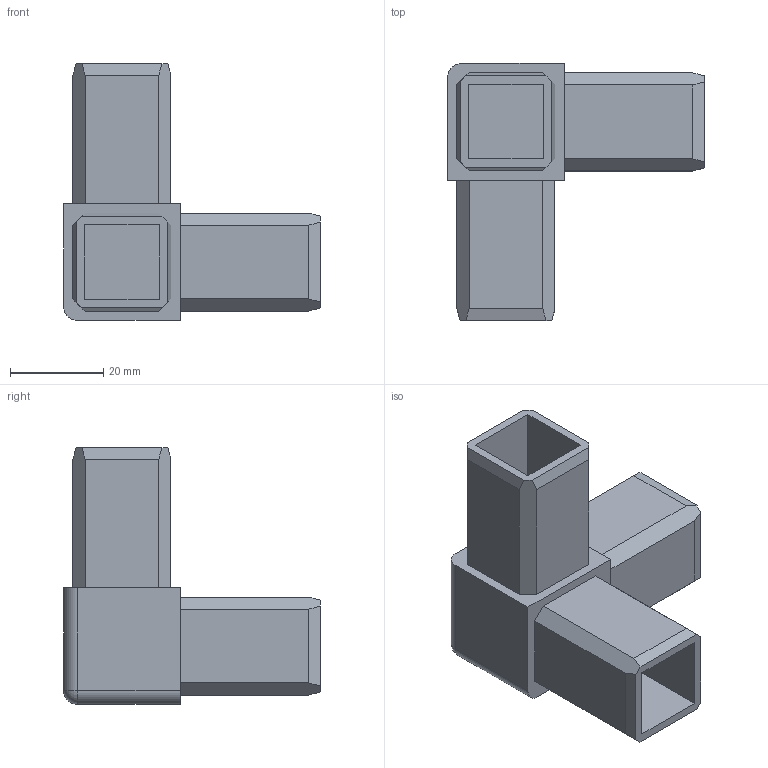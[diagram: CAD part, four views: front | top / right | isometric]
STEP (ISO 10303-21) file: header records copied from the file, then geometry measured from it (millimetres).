
FILE_DESCRIPTION (( 'STEP AP214' ), '1' );
FILE_NAME ('L15803.step', '2024-12-03T16:18:49', ( '' ), ( '' ), 'SwSTEP 2.0', 'SolidWorks 2023', '' );
FILE_SCHEMA (( 'AUTOMOTIVE_DESIGN' ));
Length unit declared in the file: millimetre
Products named in the file (1): L15803
Bounding box: 55 x 55 x 55 mm (x, y, z)
Volume: 23202.6 mm3; surface area: 17158.8 mm2
Topology: 1 solids, 1 shells, 58 faces, 157 edges, 102 vertices
Faces by surface type: plane 54, cylinder 3, sphere 1
Entity records: 1809 total; most frequent: CARTESIAN_POINT 317, ORIENTED_EDGE 312, DIRECTION 280, EDGE_CURVE 156, VECTOR 150, LINE 150, VERTEX_POINT 102, AXIS2_PLACEMENT_3D 65
